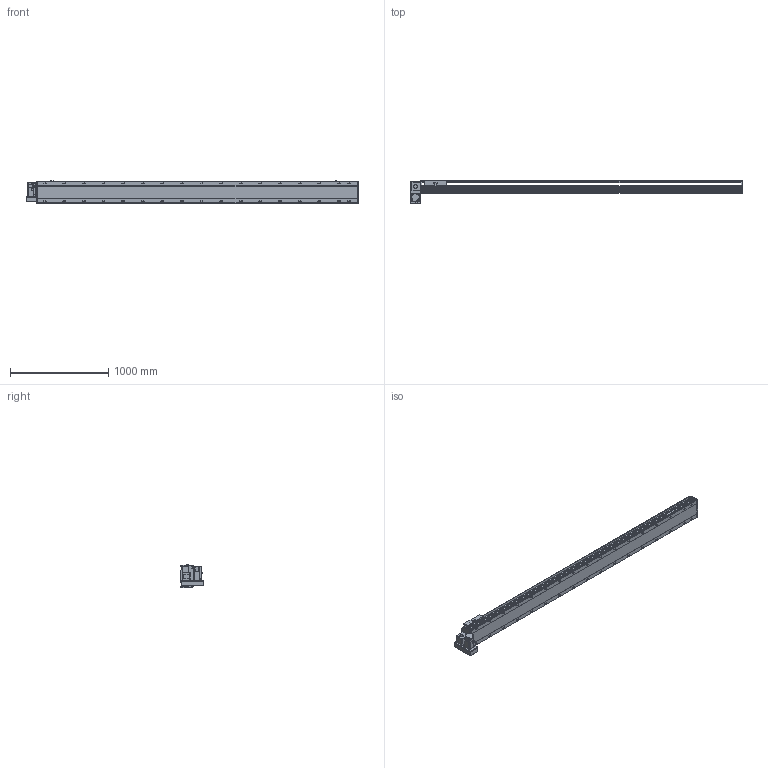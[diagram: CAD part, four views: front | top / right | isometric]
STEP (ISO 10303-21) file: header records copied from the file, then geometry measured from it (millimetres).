
FILE_DESCRIPTION(/* description */ ('STEP AP214'),/* implementation_level */ '2;1');
FILE_NAME(/* name */ 'PBS220-P40-S2900-LD-T75-C1-N(0)',/* time_stamp */ '2022-06-27T09:46:55+02:00',/* author */ ('License CC BY-ND 4.0'),/* organization */ ('CADENAS'),/* preprocessor_version */ 'ST-DEVELOPER v18.102',/* originating_system */ 'PARTsolutions',/* authorisation */ ' ');
FILE_SCHEMA (('AUTOMOTIVE_DESIGN {1 0 10303 214 3 1 1}'));
Length unit declared in the file: millimetre
Products named in the file (7): PBS220-P40-S2900-LD-T75-C1-N(0); PBS220_sensor; PBS220_plant; PBS220_sliser; T75-p1; PBS220T-LD_motors; PBS220-S2900()_body
Assembly tree (8 placements, depth 2):
  PBS220-P40-S2900-LD-T75-C1-N(0)
    PBS220_sensor  x3
    PBS220_plant
    PBS220_sliser
    T75-p1
    PBS220T-LD_motors
    PBS220-S2900()_body
Bounding box: 3384 x 239 x 238.5 mm (x, y, z)
Volume: 47042716.9 mm3; surface area: 4278694.6 mm2
Topology: 8 solids, 8 shells, 1022 faces, 2648 edges, 1720 vertices
Faces by surface type: plane 634, cylinder 330, cone 58
Full cylindrical faces by diameter (mm): 2.013 x4, 4.5 x14, 4.917 x4, 6 x7, 6.647 x8, 8 x10, 8.376 x34, 8.5 x34, 10 x6, 14 x34, 38 x2, 40 x1, 70 x1
Entity records: 28436 total; most frequent: CARTESIAN_POINT 5086, DIRECTION 4941, ORIENTED_EDGE 4430, EDGE_CURVE 2215, AXIS2_PLACEMENT_3D 1789, VERTEX_POINT 1560, LINE 1363, VECTOR 1363
